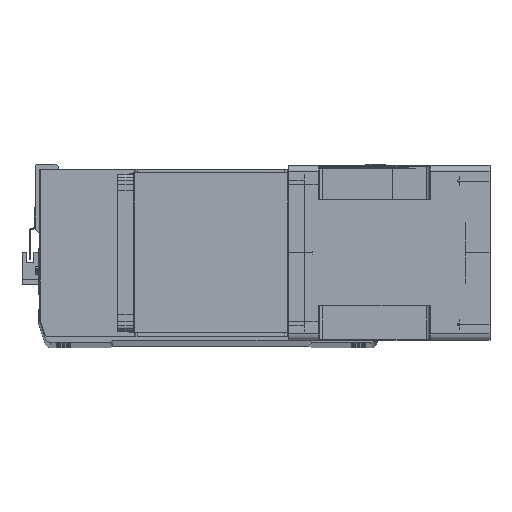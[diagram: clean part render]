
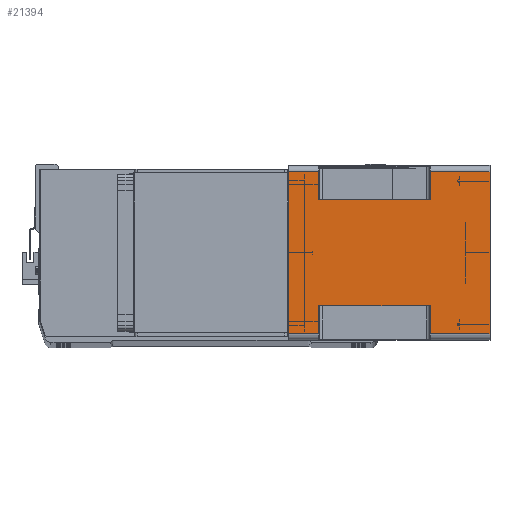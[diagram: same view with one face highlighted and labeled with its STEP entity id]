
A CAD part, top view. The second image highlights one B-rep face of the part: STEP entity #21394.
In plain terms, the highlighted planar face has unit normal (0, 0, 1) as drawn and (1, 0, 0) by its records, which use the part's own axes.
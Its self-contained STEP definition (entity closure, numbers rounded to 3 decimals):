
#567 = LINE ( 'NONE', #27672, #20264 ) ;
#668 = LINE ( 'NONE', #22839, #27766 ) ;
#1071 = VERTEX_POINT ( 'NONE', #9238 ) ;
#1136 = CARTESIAN_POINT ( 'NONE',  ( 71., -66., -164. ) ) ;
#2044 = LINE ( 'NONE', #10471, #29155 ) ;
#2929 = EDGE_CURVE ( 'NONE', #20059, #15602, #5752, .T. ) ;
#3127 = VERTEX_POINT ( 'NONE', #18883 ) ;
#3684 = DIRECTION ( 'NONE',  ( 0., 0., 1. ) ) ;
#3824 = EDGE_CURVE ( 'NONE', #3127, #9570, #11030, .T. ) ;
#4432 = EDGE_CURVE ( 'NONE', #20059, #5895, #668, .T. ) ;
#4674 = CARTESIAN_POINT ( 'NONE',  ( 71., 66., -115.5 ) ) ;
#5016 = CARTESIAN_POINT ( 'NONE',  ( 71., -66., -115.5 ) ) ;
#5049 = LINE ( 'NONE', #29968, #24814 ) ;
#5408 = ORIENTED_EDGE ( 'NONE', *, *, #15927, .F. ) ;
#5486 = EDGE_CURVE ( 'NONE', #1071, #3127, #33820, .T. ) ;
#5752 = LINE ( 'NONE', #28330, #16424 ) ;
#5895 = VERTEX_POINT ( 'NONE', #27838 ) ;
#6746 = CARTESIAN_POINT ( 'NONE',  ( 71., -66., -164. ) ) ;
#7094 = VECTOR ( 'NONE', #28003, 1000. ) ;
#7510 = EDGE_CURVE ( 'NONE', #12402, #30021, #9153, .T. ) ;
#7753 = CARTESIAN_POINT ( 'NONE',  ( 71., -66., -24.5 ) ) ;
#8018 = CARTESIAN_POINT ( 'NONE',  ( 71., -66., -24.5 ) ) ;
#8249 = VECTOR ( 'NONE', #23088, 1000. ) ;
#9003 = ORIENTED_EDGE ( 'NONE', *, *, #23510, .T. ) ;
#9153 = LINE ( 'NONE', #17759, #7094 ) ;
#9238 = CARTESIAN_POINT ( 'NONE',  ( 71., 43., -24.5 ) ) ;
#9502 = EDGE_CURVE ( 'NONE', #15758, #16345, #23728, .T. ) ;
#9570 = VERTEX_POINT ( 'NONE', #20395 ) ;
#9766 = ORIENTED_EDGE ( 'NONE', *, *, #15625, .T. ) ;
#9821 = DIRECTION ( 'NONE',  ( 0., 0., 1. ) ) ;
#10200 = VECTOR ( 'NONE', #12856, 1000. ) ;
#10471 = CARTESIAN_POINT ( 'NONE',  ( 71., 43., -115.5 ) ) ;
#11030 = LINE ( 'NONE', #25637, #30326 ) ;
#11286 = CARTESIAN_POINT ( 'NONE',  ( 71., -43., -24.5 ) ) ;
#12241 = ORIENTED_EDGE ( 'NONE', *, *, #3824, .T. ) ;
#12264 = VECTOR ( 'NONE', #25017, 1000. ) ;
#12402 = VERTEX_POINT ( 'NONE', #7753 ) ;
#12856 = DIRECTION ( 'NONE',  ( 0., 0., -1. ) ) ;
#12900 = CARTESIAN_POINT ( 'NONE',  ( 71., -66., -164. ) ) ;
#13244 = ORIENTED_EDGE ( 'NONE', *, *, #31112, .T. ) ;
#15475 = VERTEX_POINT ( 'NONE', #4674 ) ;
#15602 = VERTEX_POINT ( 'NONE', #5016 ) ;
#15625 = EDGE_CURVE ( 'NONE', #15475, #18167, #2044, .T. ) ;
#15758 = VERTEX_POINT ( 'NONE', #1136 ) ;
#15927 = EDGE_CURVE ( 'NONE', #1071, #18167, #31146, .T. ) ;
#16321 = ORIENTED_EDGE ( 'NONE', *, *, #9502, .T. ) ;
#16345 = VERTEX_POINT ( 'NONE', #27550 ) ;
#16424 = VECTOR ( 'NONE', #27986, 1000. ) ;
#16529 = CARTESIAN_POINT ( 'NONE',  ( 71., 66., -164. ) ) ;
#17759 = CARTESIAN_POINT ( 'NONE',  ( 71., -66., -164. ) ) ;
#18146 = DIRECTION ( 'NONE',  ( 0., 1., 0. ) ) ;
#18167 = VERTEX_POINT ( 'NONE', #29987 ) ;
#18441 = ORIENTED_EDGE ( 'NONE', *, *, #2929, .T. ) ;
#18883 = CARTESIAN_POINT ( 'NONE',  ( 71., 66., -24.5 ) ) ;
#19634 = CARTESIAN_POINT ( 'NONE',  ( 71., -66., 0. ) ) ;
#20059 = VERTEX_POINT ( 'NONE', #31287 ) ;
#20264 = VECTOR ( 'NONE', #29876, 1000. ) ;
#20395 = CARTESIAN_POINT ( 'NONE',  ( 71., 66., 0. ) ) ;
#20980 = LINE ( 'NONE', #16529, #8249 ) ;
#21006 = AXIS2_PLACEMENT_3D ( 'NONE', #12900, #28722, #18146 ) ;
#21394 = ADVANCED_FACE ( 'NONE', ( #32386 ), #25966, .T. ) ;
#22165 = ORIENTED_EDGE ( 'NONE', *, *, #29997, .F. ) ;
#22666 = EDGE_CURVE ( 'NONE', #15758, #15602, #5049, .T. ) ;
#22839 = CARTESIAN_POINT ( 'NONE',  ( 71., -43., -164. ) ) ;
#22948 = DIRECTION ( 'NONE',  ( 0., 0., 1. ) ) ;
#23088 = DIRECTION ( 'NONE',  ( 0., 0., 1. ) ) ;
#23276 = CARTESIAN_POINT ( 'NONE',  ( 71., 43., -164. ) ) ;
#23510 = EDGE_CURVE ( 'NONE', #12402, #5895, #26801, .T. ) ;
#23635 = DIRECTION ( 'NONE',  ( 0., -1., 0. ) ) ;
#23728 = LINE ( 'NONE', #6746, #12264 ) ;
#24814 = VECTOR ( 'NONE', #3684, 1000. ) ;
#25017 = DIRECTION ( 'NONE',  ( 0., 1., 0. ) ) ;
#25157 = VECTOR ( 'NONE', #33195, 1000. ) ;
#25637 = CARTESIAN_POINT ( 'NONE',  ( 71., 66., -164. ) ) ;
#25966 = PLANE ( 'NONE',  #21006 ) ;
#26225 = ORIENTED_EDGE ( 'NONE', *, *, #22666, .F. ) ;
#26446 = VECTOR ( 'NONE', #34082, 1000. ) ;
#26801 = LINE ( 'NONE', #11286, #25157 ) ;
#27550 = CARTESIAN_POINT ( 'NONE',  ( 71., 66., -164. ) ) ;
#27672 = CARTESIAN_POINT ( 'NONE',  ( 71., -66., 0. ) ) ;
#27766 = VECTOR ( 'NONE', #22948, 1000. ) ;
#27838 = CARTESIAN_POINT ( 'NONE',  ( 71., -43., -24.5 ) ) ;
#27986 = DIRECTION ( 'NONE',  ( 0., -1., 0. ) ) ;
#28003 = DIRECTION ( 'NONE',  ( 0., 0., 1. ) ) ;
#28330 = CARTESIAN_POINT ( 'NONE',  ( 71., -66., -115.5 ) ) ;
#28722 = DIRECTION ( 'NONE',  ( 1., 0., 0. ) ) ;
#28797 = EDGE_LOOP ( 'NONE', ( #33640, #18441, #26225, #16321, #13244, #9766, #5408, #33931, #12241, #22165, #28968, #9003 ) ) ;
#28968 = ORIENTED_EDGE ( 'NONE', *, *, #7510, .F. ) ;
#29155 = VECTOR ( 'NONE', #23635, 1000. ) ;
#29876 = DIRECTION ( 'NONE',  ( 0., 1., 0. ) ) ;
#29968 = CARTESIAN_POINT ( 'NONE',  ( 71., -66., -164. ) ) ;
#29987 = CARTESIAN_POINT ( 'NONE',  ( 71., 43., -115.5 ) ) ;
#29997 = EDGE_CURVE ( 'NONE', #30021, #9570, #567, .T. ) ;
#30021 = VERTEX_POINT ( 'NONE', #19634 ) ;
#30326 = VECTOR ( 'NONE', #9821, 1000. ) ;
#31112 = EDGE_CURVE ( 'NONE', #16345, #15475, #20980, .T. ) ;
#31146 = LINE ( 'NONE', #23276, #10200 ) ;
#31287 = CARTESIAN_POINT ( 'NONE',  ( 71., -43., -115.5 ) ) ;
#32386 = FACE_OUTER_BOUND ( 'NONE', #28797, .T. ) ;
#33195 = DIRECTION ( 'NONE',  ( 0., 1., 0. ) ) ;
#33640 = ORIENTED_EDGE ( 'NONE', *, *, #4432, .F. ) ;
#33820 = LINE ( 'NONE', #8018, #26446 ) ;
#33931 = ORIENTED_EDGE ( 'NONE', *, *, #5486, .T. ) ;
#34082 = DIRECTION ( 'NONE',  ( 0., 1., 0. ) ) ;
